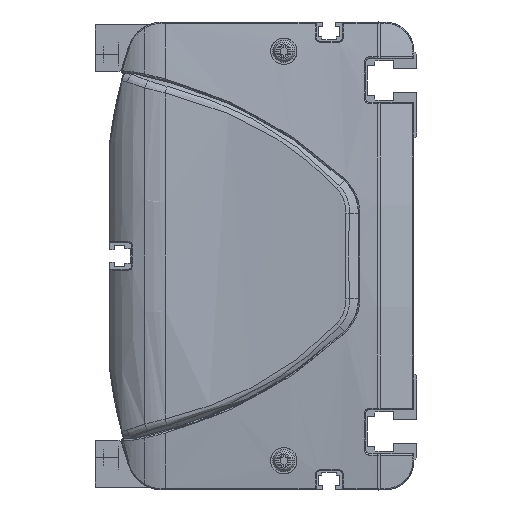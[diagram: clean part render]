
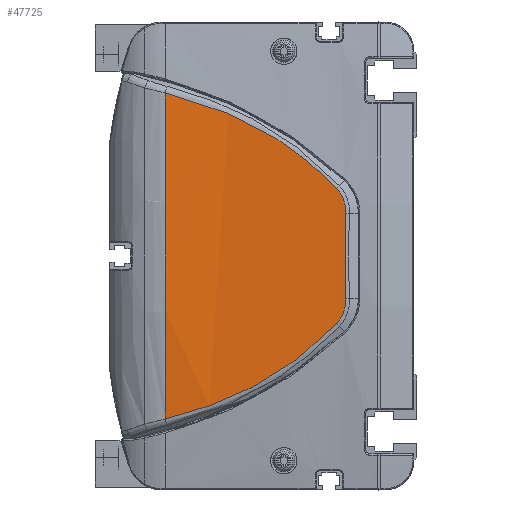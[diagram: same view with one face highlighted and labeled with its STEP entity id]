
A CAD part, left-side view. The second image highlights one B-rep face of the part: STEP entity #47725.
In plain terms, the highlighted cylindrical face has radius 600 mm (diameter 1200 mm), a partial arc.
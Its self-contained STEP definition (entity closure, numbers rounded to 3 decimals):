
#42744=CARTESIAN_POINT('',(-12.406,86.,
55.736));
#42745=CARTESIAN_POINT('',(-12.529,80.495,
54.41));
#42746=CARTESIAN_POINT('',(-12.828,69.636,
51.114));
#42747=CARTESIAN_POINT('',(-13.389,54.079,
44.179));
#42748=CARTESIAN_POINT('',(-14.01,39.709,
34.979));
#42749=CARTESIAN_POINT('',(-14.395,31.353,
27.243));
#42750=CARTESIAN_POINT('',(-14.555,27.451,
23.113));
#42752=CARTESIAN_POINT('',(-14.555,27.451,
23.113));
#42753=CARTESIAN_POINT('',(-14.641,25.336,
20.875));
#42754=CARTESIAN_POINT('',(-14.745,24.202,
17.745));
#42755=CARTESIAN_POINT('',(-14.821,24.351,
14.67));
#42757=CARTESIAN_POINT('',(-14.821,24.351,
14.67));
#42758=CARTESIAN_POINT('',(-14.9,24.51,
11.413));
#42759=CARTESIAN_POINT('',(-15.007,24.721,
4.895));
#42760=CARTESIAN_POINT('',(-15.007,24.721,
-4.895));
#42761=CARTESIAN_POINT('',(-14.9,24.51,
-11.413));
#42762=CARTESIAN_POINT('',(-14.821,24.351,
-14.67));
#42764=CARTESIAN_POINT('',(-14.821,24.351,
-14.67));
#42765=CARTESIAN_POINT('',(-14.745,24.202,
-17.745));
#42766=CARTESIAN_POINT('',(-14.641,25.337,
-20.876));
#42767=CARTESIAN_POINT('',(-14.555,27.451,
-23.113));
#42769=CARTESIAN_POINT('',(-14.555,27.451,
-23.113));
#42770=CARTESIAN_POINT('',(-14.395,31.353,
-27.243));
#42771=CARTESIAN_POINT('',(-14.01,39.709,
-34.979));
#42772=CARTESIAN_POINT('',(-13.389,54.079,
-44.179));
#42773=CARTESIAN_POINT('',(-12.828,69.636,
-51.114));
#42774=CARTESIAN_POINT('',(-12.529,80.495,
-54.41));
#42775=CARTESIAN_POINT('',(-12.406,86.,
-55.736));
#42777=CARTESIAN_POINT('',(585.,86.,0.));
#42778=DIRECTION('',(0.,1.,0.));
#42779=DIRECTION('',(-0.996,0.,-0.093));
#42780=AXIS2_PLACEMENT_3D('',#42777,#42778,#42779);
#42793=CARTESIAN_POINT('',(-12.406,86.,
55.736));
#43301=VERTEX_POINT('',#42793);
#43302=CARTESIAN_POINT('',(-12.406,86.,
-55.736));
#43303=VERTEX_POINT('',#43302);
#43355=VERTEX_POINT('',#42750);
#43356=VERTEX_POINT('',#42755);
#43357=VERTEX_POINT('',#42762);
#43358=VERTEX_POINT('',#42767);
#47707=CARTESIAN_POINT('',(585.,87.45,0.));
#47708=DIRECTION('',(0.,-1.,0.));
#47709=DIRECTION('',(0.,0.,-1.));
#47710=AXIS2_PLACEMENT_3D('',#47707,#47708,#47709);
#47711=CYLINDRICAL_SURFACE('',#47710,600.);
#47713=ORIENTED_EDGE('',*,*,#47712,.T.);
#47715=ORIENTED_EDGE('',*,*,#47714,.T.);
#47716=ORIENTED_EDGE('',*,*,#47697,.T.);
#47718=ORIENTED_EDGE('',*,*,#47717,.T.);
#47720=ORIENTED_EDGE('',*,*,#47719,.T.);
#47722=ORIENTED_EDGE('',*,*,#47721,.T.);
#47723=EDGE_LOOP('',(#47713,#47715,#47716,#47718,#47720,#47722));
#47724=FACE_OUTER_BOUND('',#47723,.F.);
#47725=ADVANCED_FACE('',(#47724),#47711,.T.);
#42751=B_SPLINE_CURVE_WITH_KNOTS('',3,(#42744,#42745,#42746,#42747,#42748,
#42749,#42750),.UNSPECIFIED.,.F.,.F.,(4,1,1,1,4),(0.,0.25,0.5,0.75,
1.),.UNSPECIFIED.);
#42756=B_SPLINE_CURVE_WITH_KNOTS('',3,(#42752,#42753,#42754,#42755),
.UNSPECIFIED.,.F.,.F.,(4,4),(0.,1.),.UNSPECIFIED.);
#42763=B_SPLINE_CURVE_WITH_KNOTS('',3,(#42757,#42758,#42759,#42760,#42761,
#42762),.UNSPECIFIED.,.F.,.F.,(4,1,1,4),(0.,0.333,
0.667,1.),.UNSPECIFIED.);
#42768=B_SPLINE_CURVE_WITH_KNOTS('',3,(#42764,#42765,#42766,#42767),
.UNSPECIFIED.,.F.,.F.,(4,4),(0.,1.),.UNSPECIFIED.);
#42776=B_SPLINE_CURVE_WITH_KNOTS('',3,(#42769,#42770,#42771,#42772,#42773,
#42774,#42775),.UNSPECIFIED.,.F.,.F.,(4,1,1,1,4),(0.,0.25,0.5,0.75,
1.),.UNSPECIFIED.);
#42781=CIRCLE('',#42780,600.);
#47697=EDGE_CURVE('',#43356,#43357,#42763,.T.);
#47712=EDGE_CURVE('',#43301,#43355,#42751,.T.);
#47714=EDGE_CURVE('',#43355,#43356,#42756,.T.);
#47717=EDGE_CURVE('',#43357,#43358,#42768,.T.);
#47719=EDGE_CURVE('',#43358,#43303,#42776,.T.);
#47721=EDGE_CURVE('',#43303,#43301,#42781,.T.);
